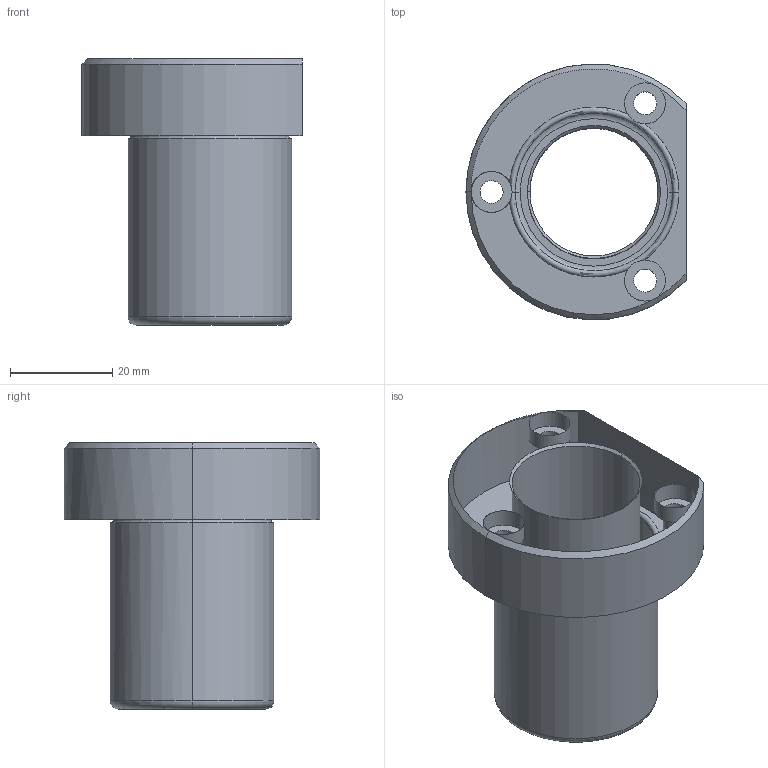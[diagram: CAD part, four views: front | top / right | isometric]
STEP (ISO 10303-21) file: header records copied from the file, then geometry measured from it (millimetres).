
FILE_DESCRIPTION(('CATIA V5 STEP Exchange'),'2;1');
FILE_NAME('C:\Users\Utente\Desktop\IO LAVORO\3D X SITO CF\X SITO\737\737-19.stp','2021-01-17T17:24:05+00:00',('none'),('none'),'CATIA Version 5 Release 20 GA (IN-10)','CATIA V5 STEP AP203','none');
FILE_SCHEMA(('CONFIG_CONTROL_DESIGN'));
Length unit declared in the file: millimetre
Products named in the file (1): 737-19
Bounding box: 43 x 49.97 x 52 mm (x, y, z)
Volume: 29894.1 mm3; surface area: 13342.3 mm2
Topology: 1 solids, 1 shells, 37 faces, 86 edges, 52 vertices
Faces by surface type: cylinder 18, plane 7, cone 6, torus 6
Entity records: 1289 total; most frequent: CARTESIAN_POINT 425, ORIENTED_EDGE 172, DIRECTION 145, EDGE_CURVE 86, AXIS2_PLACEMENT_3D 83, VERTEX_POINT 52, EDGE_LOOP 46, CIRCLE 45
